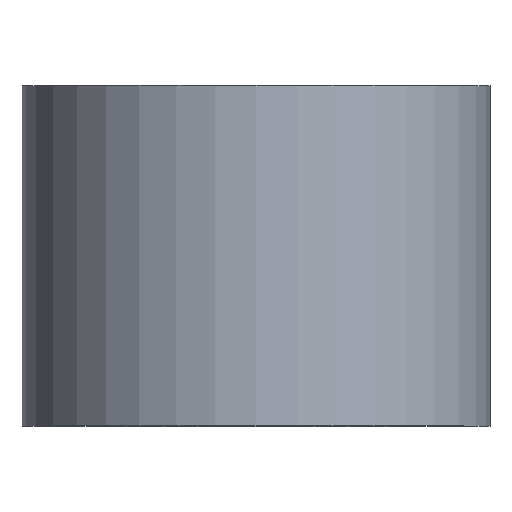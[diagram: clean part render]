
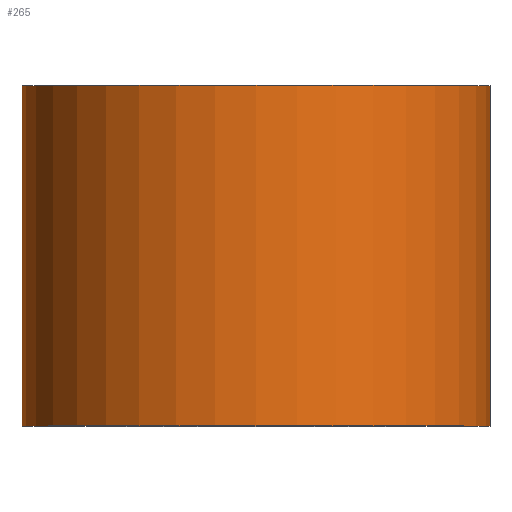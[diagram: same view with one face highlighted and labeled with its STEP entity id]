
A CAD part, top view. The second image highlights one B-rep face of the part: STEP entity #265.
In plain terms, the highlighted cylindrical face has radius 11 mm (diameter 22 mm), a partial arc.
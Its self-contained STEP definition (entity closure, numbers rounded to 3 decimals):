
#14 = DIRECTION ( 'NONE',  ( 0., 1., 0. ) ) ;
#25 = EDGE_CURVE ( 'NONE', #53, #192, #278, .T. ) ;
#26 = ORIENTED_EDGE ( 'NONE', *, *, #146, .F. ) ;
#34 = VERTEX_POINT ( 'NONE', #267 ) ;
#37 = DIRECTION ( 'NONE',  ( 0., 1., 0. ) ) ;
#53 = VERTEX_POINT ( 'NONE', #266 ) ;
#63 = FACE_OUTER_BOUND ( 'NONE', #239, .T. ) ;
#74 = CARTESIAN_POINT ( 'NONE',  ( 0., 16., 0. ) ) ;
#98 = CARTESIAN_POINT ( 'NONE',  ( 0., 0., 0. ) ) ;
#108 = EDGE_CURVE ( 'NONE', #34, #243, #213, .T. ) ;
#115 = AXIS2_PLACEMENT_3D ( 'NONE', #98, #132, #197 ) ;
#122 = VECTOR ( 'NONE', #14, 1000. ) ;
#132 = DIRECTION ( 'NONE',  ( 0., 1., 0. ) ) ;
#134 = DIRECTION ( 'NONE',  ( -1., 0., 0. ) ) ;
#136 = DIRECTION ( 'NONE',  ( 0., 1., 0. ) ) ;
#141 = AXIS2_PLACEMENT_3D ( 'NONE', #291, #150, #134 ) ;
#146 = EDGE_CURVE ( 'NONE', #53, #34, #264, .T. ) ;
#150 = DIRECTION ( 'NONE',  ( 0., 1., 0. ) ) ;
#151 = ORIENTED_EDGE ( 'NONE', *, *, #108, .F. ) ;
#152 = DIRECTION ( 'NONE',  ( -1., 0., 0. ) ) ;
#164 = LINE ( 'NONE', #176, #205 ) ;
#176 = CARTESIAN_POINT ( 'NONE',  ( 11., 0., 0. ) ) ;
#192 = VERTEX_POINT ( 'NONE', #273 ) ;
#197 = DIRECTION ( 'NONE',  ( -1., 0., 0. ) ) ;
#205 = VECTOR ( 'NONE', #37, 1000. ) ;
#211 = ORIENTED_EDGE ( 'NONE', *, *, #215, .T. ) ;
#213 = CIRCLE ( 'NONE', #227, 11. ) ;
#215 = EDGE_CURVE ( 'NONE', #192, #243, #164, .T. ) ;
#225 = CARTESIAN_POINT ( 'NONE',  ( 11., 16., 0. ) ) ;
#227 = AXIS2_PLACEMENT_3D ( 'NONE', #74, #136, #152 ) ;
#239 = EDGE_LOOP ( 'NONE', ( #260, #211, #151, #26 ) ) ;
#243 = VERTEX_POINT ( 'NONE', #225 ) ;
#260 = ORIENTED_EDGE ( 'NONE', *, *, #25, .T. ) ;
#264 = LINE ( 'NONE', #272, #122 ) ;
#265 = ADVANCED_FACE ( 'NONE', ( #63 ), #297, .T. ) ;
#266 = CARTESIAN_POINT ( 'NONE',  ( -11., 0., 0. ) ) ;
#267 = CARTESIAN_POINT ( 'NONE',  ( -11., 16., 0. ) ) ;
#272 = CARTESIAN_POINT ( 'NONE',  ( -11., 0., 0. ) ) ;
#273 = CARTESIAN_POINT ( 'NONE',  ( 11., 0., 0. ) ) ;
#278 = CIRCLE ( 'NONE', #115, 11. ) ;
#291 = CARTESIAN_POINT ( 'NONE',  ( 0., 0., 0. ) ) ;
#297 = CYLINDRICAL_SURFACE ( 'NONE', #141, 11. ) ;
